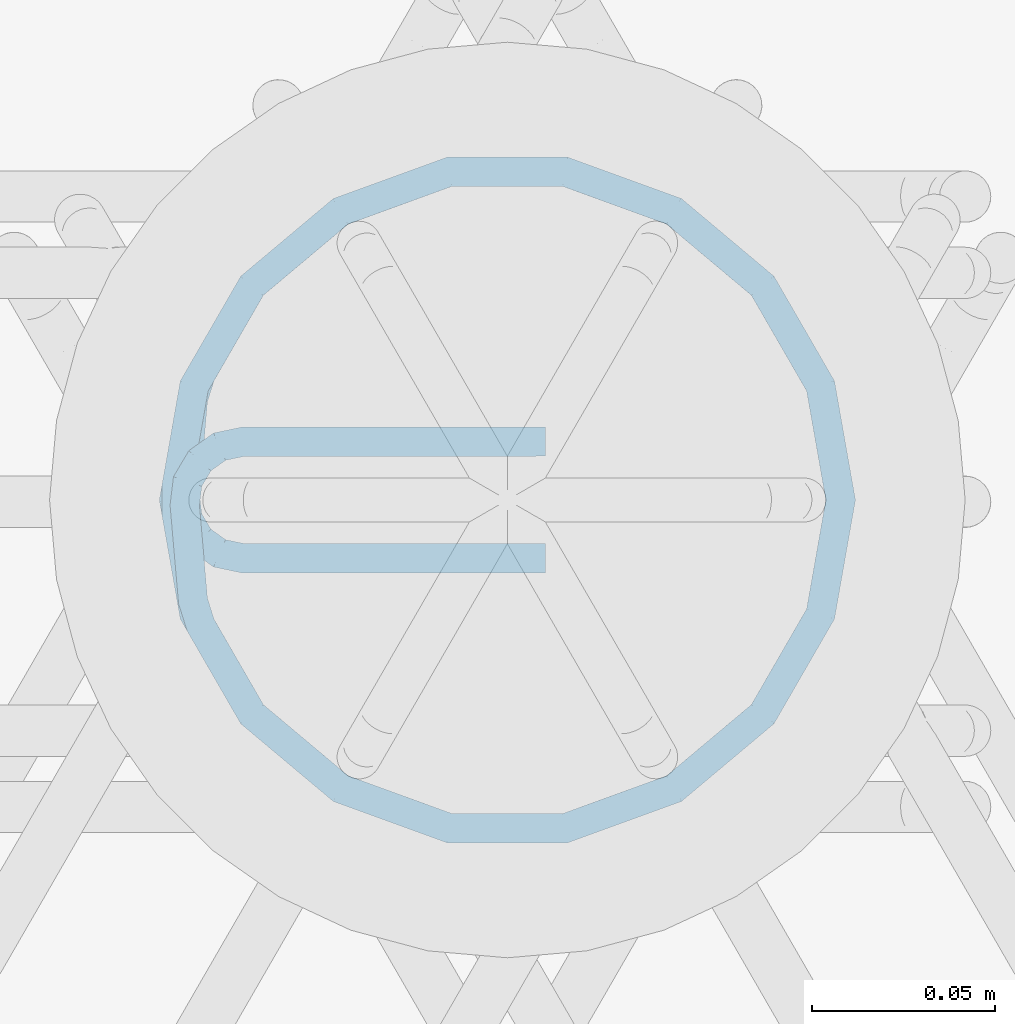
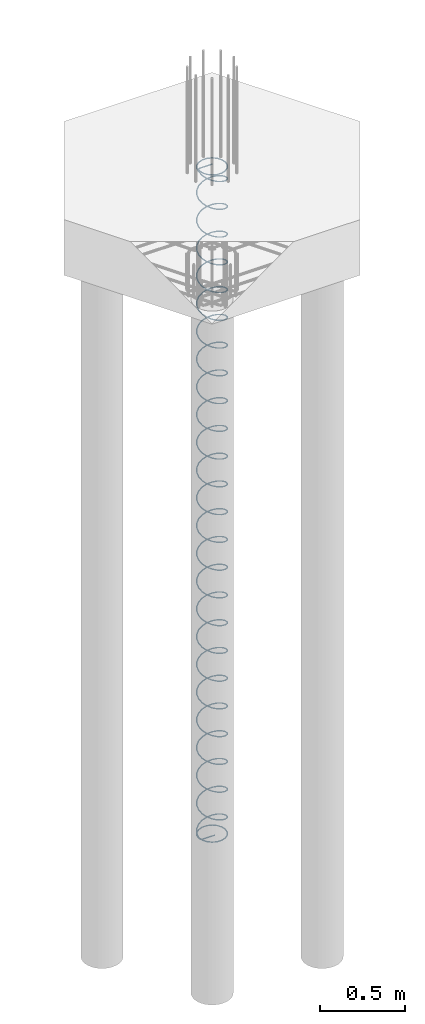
# One storey, part 18 of 23: 1 reinforcing bar.
"""IFC2X3 building model written with IfcOpenShell, lengths in metres."""

from ifc_helpers import new_model, entity, si_unit, direction, frame, origin, place, context, subcontext, project, spatial, shape, source, transform, mapped, element, save


model = new_model("IFC2X3")

# Units and contexts
model_context = context("Model", 3, precision=0.0, world=origin(), true_north=direction((0.0, 1.0)))
plan_context = context("Plan", 3, precision=0.0, world=origin(), true_north=direction((0.0, 1.0)))
body_context = subcontext(model_context, "Body", "Model", "MODEL_VIEW", scale=1.0)
ifc_project = project(units=[si_unit("LENGTHUNIT", "METRE"), si_unit("AREAUNIT", "SQUARE_METRE"), si_unit("VOLUMEUNIT", "CUBIC_METRE"), si_unit("PLANEANGLEUNIT", "RADIAN"), si_unit("THERMODYNAMICTEMPERATUREUNIT", "DEGREE_CELSIUS"), si_unit("FORCEUNIT", "NEWTON"), si_unit("MASSUNIT", "GRAM", prefix="KILO")], contexts=[model_context, plan_context])

# Site, building, storey
placement = place(None, origin())
site = spatial("IfcSite", under=ifc_project, at=placement, Name="Default Site", CompositionType="ELEMENT")
building = spatial("IfcBuilding", under=site, at=placement, Name="Default Building", CompositionType="ELEMENT")
storey_placement = place(placement, frame((0.0, 0.0, 0.0), z_axis=(1.0, 0.0, 0.0), x_axis=(0.0, 0.0, 1.0)))
storey = spatial("IfcBuildingStorey", under=building, at=storey_placement, Name="Piano 0", CompositionType="ELEMENT", Elevation=0.0)

# Reinforcing bar
shared_shape = source(origin(), body_context, None, "AdvancedSweptSolid", [
    entity("IfcSweptDiskSolid", entity("IfcCompositeCurve", [entity("IfcCompositeCurveSegment", "CONTINUOUS", True, entity("IfcPolyline", [entity("IfcCartesianPoint", [0.0, 0.0, 0.0]), entity("IfcCartesianPoint", [-0.08255, 0.0, 0.0]), entity("IfcCartesianPoint", [-0.088992, -0.001354, -1.3e-05]), entity("IfcCartesianPoint", [-0.094343, -0.005186, -4.9e-05]), entity("IfcCartesianPoint", [-0.097699, -0.010849, -0.000103]), entity("IfcCartesianPoint", [-0.09849, -0.017383, -0.000164]), entity("IfcCartesianPoint", [-0.096222, -0.043503, -0.000411]), entity("IfcCartesianPoint", [-0.094139, -0.050118, -0.000494]), entity("IfcCartesianPoint", [-0.080113, -0.074411, -0.000889]), entity("IfcCartesianPoint", [-0.055903, -0.094726, -0.001333]), entity("IfcCartesianPoint", [-0.026205, -0.105535, -0.001778]), entity("IfcCartesianPoint", [0.005399, -0.105535, -0.002222]), entity("IfcCartesianPoint", [0.035097, -0.094726, -0.002667]), entity("IfcCartesianPoint", [0.059307, -0.074411, -0.003111]), entity("IfcCartesianPoint", [0.075109, -0.047042, -0.003556]), entity("IfcCartesianPoint", [0.080597, -0.015918, -0.004]), entity("IfcCartesianPoint", [0.075109, 0.015206, -0.004444]), entity("IfcCartesianPoint", [0.059307, 0.042576, -0.004889]), entity("IfcCartesianPoint", [0.035097, 0.062891, -0.005333]), entity("IfcCartesianPoint", [0.005399, 0.0737, -0.005778]), entity("IfcCartesianPoint", [-0.026205, 0.0737, -0.006222]), entity("IfcCartesianPoint", [-0.055903, 0.062891, -0.006667]), entity("IfcCartesianPoint", [-0.080113, 0.042576, -0.007111]), entity("IfcCartesianPoint", [-0.095915, 0.015206, -0.007556]), entity("IfcCartesianPoint", [-0.100736, -0.012136, -0.007946]), entity("IfcCartesianPoint", [-0.100774, -0.019485, -0.009274]), entity("IfcCartesianPoint", [-0.095915, -0.047042, -0.019111]), entity("IfcCartesianPoint", [-0.080113, -0.074411, -0.030222]), entity("IfcCartesianPoint", [-0.055903, -0.094726, -0.041333]), entity("IfcCartesianPoint", [-0.026205, -0.105535, -0.052444]), entity("IfcCartesianPoint", [0.005399, -0.105535, -0.063556]), entity("IfcCartesianPoint", [0.035097, -0.094726, -0.074667]), entity("IfcCartesianPoint", [0.059307, -0.074411, -0.085778]), entity("IfcCartesianPoint", [0.075109, -0.047042, -0.096889]), entity("IfcCartesianPoint", [0.080597, -0.015918, -0.108]), entity("IfcCartesianPoint", [0.075109, 0.015206, -0.119111]), entity("IfcCartesianPoint", [0.059307, 0.042576, -0.130222]), entity("IfcCartesianPoint", [0.035097, 0.062891, -0.141333]), entity("IfcCartesianPoint", [0.005399, 0.0737, -0.152444]), entity("IfcCartesianPoint", [-0.026205, 0.0737, -0.163556]), entity("IfcCartesianPoint", [-0.055903, 0.062891, -0.174667]), entity("IfcCartesianPoint", [-0.080113, 0.042576, -0.185778]), entity("IfcCartesianPoint", [-0.095915, 0.015206, -0.196889]), entity("IfcCartesianPoint", [-0.101403, -0.015918, -0.208]), entity("IfcCartesianPoint", [-0.095915, -0.047042, -0.219111]), entity("IfcCartesianPoint", [-0.080113, -0.074411, -0.230222]), entity("IfcCartesianPoint", [-0.055903, -0.094726, -0.241333]), entity("IfcCartesianPoint", [-0.026205, -0.105535, -0.252444]), entity("IfcCartesianPoint", [0.005399, -0.105535, -0.263556]), entity("IfcCartesianPoint", [0.035097, -0.094726, -0.274667]), entity("IfcCartesianPoint", [0.059307, -0.074411, -0.285778]), entity("IfcCartesianPoint", [0.075109, -0.047042, -0.296889]), entity("IfcCartesianPoint", [0.080597, -0.015918, -0.308]), entity("IfcCartesianPoint", [0.075109, 0.015206, -0.319111]), entity("IfcCartesianPoint", [0.059307, 0.042576, -0.330222]), entity("IfcCartesianPoint", [0.035097, 0.062891, -0.341333]), entity("IfcCartesianPoint", [0.005399, 0.0737, -0.352444]), entity("IfcCartesianPoint", [-0.026205, 0.0737, -0.363556]), entity("IfcCartesianPoint", [-0.055903, 0.062891, -0.374667]), entity("IfcCartesianPoint", [-0.080113, 0.042576, -0.385778]), entity("IfcCartesianPoint", [-0.095915, 0.015206, -0.396889]), entity("IfcCartesianPoint", [-0.101403, -0.015918, -0.408]), entity("IfcCartesianPoint", [-0.095915, -0.047042, -0.419111]), entity("IfcCartesianPoint", [-0.080113, -0.074411, -0.430222]), entity("IfcCartesianPoint", [-0.055903, -0.094726, -0.441333]), entity("IfcCartesianPoint", [-0.026205, -0.105535, -0.452444]), entity("IfcCartesianPoint", [0.005399, -0.105535, -0.463556]), entity("IfcCartesianPoint", [0.035097, -0.094726, -0.474667]), entity("IfcCartesianPoint", [0.059307, -0.074411, -0.485778]), entity("IfcCartesianPoint", [0.075109, -0.047042, -0.496889]), entity("IfcCartesianPoint", [0.080597, -0.015918, -0.508]), entity("IfcCartesianPoint", [0.075109, 0.015206, -0.519111]), entity("IfcCartesianPoint", [0.059307, 0.042576, -0.530222]), entity("IfcCartesianPoint", [0.035097, 0.062891, -0.541333]), entity("IfcCartesianPoint", [0.005399, 0.0737, -0.552444]), entity("IfcCartesianPoint", [-0.026205, 0.0737, -0.563556]), entity("IfcCartesianPoint", [-0.055903, 0.062891, -0.574667]), entity("IfcCartesianPoint", [-0.080113, 0.042576, -0.585778]), entity("IfcCartesianPoint", [-0.095915, 0.015206, -0.596889]), entity("IfcCartesianPoint", [-0.101403, -0.015918, -0.608]), entity("IfcCartesianPoint", [-0.095915, -0.047042, -0.619111]), entity("IfcCartesianPoint", [-0.080113, -0.074411, -0.630222]), entity("IfcCartesianPoint", [-0.055903, -0.094726, -0.641333]), entity("IfcCartesianPoint", [-0.026205, -0.105535, -0.652444]), entity("IfcCartesianPoint", [0.005399, -0.105535, -0.663556]), entity("IfcCartesianPoint", [0.035097, -0.094726, -0.674667]), entity("IfcCartesianPoint", [0.059307, -0.074411, -0.685778]), entity("IfcCartesianPoint", [0.075109, -0.047042, -0.696889]), entity("IfcCartesianPoint", [0.080597, -0.015918, -0.708]), entity("IfcCartesianPoint", [0.075109, 0.015206, -0.719111]), entity("IfcCartesianPoint", [0.059307, 0.042576, -0.730222]), entity("IfcCartesianPoint", [0.035097, 0.062891, -0.741333]), entity("IfcCartesianPoint", [0.005399, 0.0737, -0.752444]), entity("IfcCartesianPoint", [-0.026205, 0.0737, -0.763556]), entity("IfcCartesianPoint", [-0.055903, 0.062891, -0.774667]), entity("IfcCartesianPoint", [-0.080113, 0.042576, -0.785778]), entity("IfcCartesianPoint", [-0.095915, 0.015206, -0.796889]), entity("IfcCartesianPoint", [-0.101403, -0.015918, -0.808]), entity("IfcCartesianPoint", [-0.095915, -0.047042, -0.819111]), entity("IfcCartesianPoint", [-0.080113, -0.074411, -0.830222]), entity("IfcCartesianPoint", [-0.055903, -0.094726, -0.841333]), entity("IfcCartesianPoint", [-0.026205, -0.105535, -0.852444]), entity("IfcCartesianPoint", [0.005399, -0.105535, -0.863556]), entity("IfcCartesianPoint", [0.035097, -0.094726, -0.874667]), entity("IfcCartesianPoint", [0.059307, -0.074411, -0.885778]), entity("IfcCartesianPoint", [0.075109, -0.047042, -0.896889]), entity("IfcCartesianPoint", [0.080597, -0.015918, -0.908]), entity("IfcCartesianPoint", [0.075109, 0.015206, -0.919111]), entity("IfcCartesianPoint", [0.059307, 0.042576, -0.930222]), entity("IfcCartesianPoint", [0.035097, 0.062891, -0.941333]), entity("IfcCartesianPoint", [0.005399, 0.0737, -0.952444]), entity("IfcCartesianPoint", [-0.026205, 0.0737, -0.963556]), entity("IfcCartesianPoint", [-0.055903, 0.062891, -0.974667]), entity("IfcCartesianPoint", [-0.080113, 0.042576, -0.985778]), entity("IfcCartesianPoint", [-0.095915, 0.015206, -0.996889]), entity("IfcCartesianPoint", [-0.101403, -0.015918, -1.008]), entity("IfcCartesianPoint", [-0.095915, -0.047042, -1.019111]), entity("IfcCartesianPoint", [-0.080113, -0.074411, -1.030222]), entity("IfcCartesianPoint", [-0.055903, -0.094726, -1.041333]), entity("IfcCartesianPoint", [-0.026205, -0.105535, -1.052444]), entity("IfcCartesianPoint", [0.005399, -0.105535, -1.063556]), entity("IfcCartesianPoint", [0.035097, -0.094726, -1.074667]), entity("IfcCartesianPoint", [0.059307, -0.074411, -1.085778]), entity("IfcCartesianPoint", [0.075109, -0.047042, -1.096889]), entity("IfcCartesianPoint", [0.080597, -0.015918, -1.108]), entity("IfcCartesianPoint", [0.075109, 0.015206, -1.119111]), entity("IfcCartesianPoint", [0.059307, 0.042576, -1.130222]), entity("IfcCartesianPoint", [0.035097, 0.062891, -1.141333]), entity("IfcCartesianPoint", [0.005399, 0.0737, -1.152444]), entity("IfcCartesianPoint", [-0.026205, 0.0737, -1.163556]), entity("IfcCartesianPoint", [-0.055903, 0.062891, -1.174667]), entity("IfcCartesianPoint", [-0.080113, 0.042576, -1.185778]), entity("IfcCartesianPoint", [-0.095915, 0.015206, -1.196889]), entity("IfcCartesianPoint", [-0.101403, -0.015918, -1.208]), entity("IfcCartesianPoint", [-0.095915, -0.047042, -1.219111]), entity("IfcCartesianPoint", [-0.080113, -0.074411, -1.230222]), entity("IfcCartesianPoint", [-0.055903, -0.094726, -1.241333]), entity("IfcCartesianPoint", [-0.026205, -0.105535, -1.252444]), entity("IfcCartesianPoint", [0.005399, -0.105535, -1.263556]), entity("IfcCartesianPoint", [0.035097, -0.094726, -1.274667]), entity("IfcCartesianPoint", [0.059307, -0.074411, -1.285778]), entity("IfcCartesianPoint", [0.075109, -0.047042, -1.296889]), entity("IfcCartesianPoint", [0.080597, -0.015918, -1.308]), entity("IfcCartesianPoint", [0.075109, 0.015206, -1.319111]), entity("IfcCartesianPoint", [0.059307, 0.042576, -1.330222]), entity("IfcCartesianPoint", [0.035097, 0.062891, -1.341333]), entity("IfcCartesianPoint", [0.005399, 0.0737, -1.352444]), entity("IfcCartesianPoint", [-0.026205, 0.0737, -1.363556]), entity("IfcCartesianPoint", [-0.055903, 0.062891, -1.374667]), entity("IfcCartesianPoint", [-0.080113, 0.042576, -1.385778]), entity("IfcCartesianPoint", [-0.095915, 0.015206, -1.396889]), entity("IfcCartesianPoint", [-0.101403, -0.015918, -1.408]), entity("IfcCartesianPoint", [-0.095915, -0.047042, -1.419111]), entity("IfcCartesianPoint", [-0.080113, -0.074411, -1.430222]), entity("IfcCartesianPoint", [-0.055903, -0.094726, -1.441333]), entity("IfcCartesianPoint", [-0.026205, -0.105535, -1.452444]), entity("IfcCartesianPoint", [0.005399, -0.105535, -1.463556]), entity("IfcCartesianPoint", [0.035097, -0.094726, -1.474667]), entity("IfcCartesianPoint", [0.059307, -0.074411, -1.485778]), entity("IfcCartesianPoint", [0.075109, -0.047042, -1.496889]), entity("IfcCartesianPoint", [0.080597, -0.015918, -1.508]), entity("IfcCartesianPoint", [0.075109, 0.015206, -1.519111]), entity("IfcCartesianPoint", [0.059307, 0.042576, -1.530222]), entity("IfcCartesianPoint", [0.035097, 0.062891, -1.541333]), entity("IfcCartesianPoint", [0.005399, 0.0737, -1.552444]), entity("IfcCartesianPoint", [-0.026205, 0.0737, -1.563556]), entity("IfcCartesianPoint", [-0.055903, 0.062891, -1.574667]), entity("IfcCartesianPoint", [-0.080113, 0.042576, -1.585778]), entity("IfcCartesianPoint", [-0.095915, 0.015206, -1.596889]), entity("IfcCartesianPoint", [-0.101403, -0.015918, -1.608]), entity("IfcCartesianPoint", [-0.095915, -0.047042, -1.619111]), entity("IfcCartesianPoint", [-0.080113, -0.074411, -1.630222]), entity("IfcCartesianPoint", [-0.055903, -0.094726, -1.641333]), entity("IfcCartesianPoint", [-0.026205, -0.105535, -1.652444]), entity("IfcCartesianPoint", [0.005399, -0.105535, -1.663556]), entity("IfcCartesianPoint", [0.035097, -0.094726, -1.674667]), entity("IfcCartesianPoint", [0.059307, -0.074411, -1.685778]), entity("IfcCartesianPoint", [0.075109, -0.047042, -1.696889]), entity("IfcCartesianPoint", [0.080597, -0.015918, -1.708]), entity("IfcCartesianPoint", [0.075109, 0.015206, -1.719111]), entity("IfcCartesianPoint", [0.059307, 0.042576, -1.730222]), entity("IfcCartesianPoint", [0.035097, 0.062891, -1.741333]), entity("IfcCartesianPoint", [0.005399, 0.0737, -1.752444]), entity("IfcCartesianPoint", [-0.026205, 0.0737, -1.763556]), entity("IfcCartesianPoint", [-0.055903, 0.062891, -1.774667]), entity("IfcCartesianPoint", [-0.080113, 0.042576, -1.785778]), entity("IfcCartesianPoint", [-0.095915, 0.015206, -1.796889]), entity("IfcCartesianPoint", [-0.101403, -0.015918, -1.808]), entity("IfcCartesianPoint", [-0.095915, -0.047042, -1.819111]), entity("IfcCartesianPoint", [-0.080113, -0.074411, -1.830222]), entity("IfcCartesianPoint", [-0.055903, -0.094726, -1.841333]), entity("IfcCartesianPoint", [-0.026205, -0.105535, -1.852444]), entity("IfcCartesianPoint", [0.005399, -0.105535, -1.863556]), entity("IfcCartesianPoint", [0.035097, -0.094726, -1.874667]), entity("IfcCartesianPoint", [0.059307, -0.074411, -1.885778]), entity("IfcCartesianPoint", [0.075109, -0.047042, -1.896889]), entity("IfcCartesianPoint", [0.080597, -0.015918, -1.908]), entity("IfcCartesianPoint", [0.075109, 0.015206, -1.919111]), entity("IfcCartesianPoint", [0.059307, 0.042576, -1.930222]), entity("IfcCartesianPoint", [0.035097, 0.062891, -1.941333]), entity("IfcCartesianPoint", [0.005399, 0.0737, -1.952444]), entity("IfcCartesianPoint", [-0.026205, 0.0737, -1.963556]), entity("IfcCartesianPoint", [-0.055903, 0.062891, -1.974667]), entity("IfcCartesianPoint", [-0.080113, 0.042576, -1.985778]), entity("IfcCartesianPoint", [-0.095915, 0.015206, -1.996889]), entity("IfcCartesianPoint", [-0.101403, -0.015918, -2.008]), entity("IfcCartesianPoint", [-0.095915, -0.047042, -2.019111]), entity("IfcCartesianPoint", [-0.080113, -0.074411, -2.030222]), entity("IfcCartesianPoint", [-0.055903, -0.094726, -2.041333]), entity("IfcCartesianPoint", [-0.026205, -0.105535, -2.052444]), entity("IfcCartesianPoint", [0.005399, -0.105535, -2.063556]), entity("IfcCartesianPoint", [0.035097, -0.094726, -2.074667]), entity("IfcCartesianPoint", [0.059307, -0.074411, -2.085778]), entity("IfcCartesianPoint", [0.075109, -0.047042, -2.096889]), entity("IfcCartesianPoint", [0.080597, -0.015918, -2.108]), entity("IfcCartesianPoint", [0.075109, 0.015206, -2.119111]), entity("IfcCartesianPoint", [0.059307, 0.042576, -2.130222]), entity("IfcCartesianPoint", [0.035097, 0.062891, -2.141333]), entity("IfcCartesianPoint", [0.005399, 0.0737, -2.152444]), entity("IfcCartesianPoint", [-0.026205, 0.0737, -2.163556]), entity("IfcCartesianPoint", [-0.055903, 0.062891, -2.174667]), entity("IfcCartesianPoint", [-0.080113, 0.042576, -2.185778]), entity("IfcCartesianPoint", [-0.095915, 0.015206, -2.196889]), entity("IfcCartesianPoint", [-0.101403, -0.015918, -2.208]), entity("IfcCartesianPoint", [-0.095915, -0.047042, -2.219111]), entity("IfcCartesianPoint", [-0.080113, -0.074411, -2.230222]), entity("IfcCartesianPoint", [-0.055903, -0.094726, -2.241333]), entity("IfcCartesianPoint", [-0.026205, -0.105535, -2.252444]), entity("IfcCartesianPoint", [0.005399, -0.105535, -2.263556]), entity("IfcCartesianPoint", [0.035097, -0.094726, -2.274667]), entity("IfcCartesianPoint", [0.059307, -0.074411, -2.285778]), entity("IfcCartesianPoint", [0.075109, -0.047042, -2.296889]), entity("IfcCartesianPoint", [0.080597, -0.015918, -2.308]), entity("IfcCartesianPoint", [0.075109, 0.015206, -2.319111]), entity("IfcCartesianPoint", [0.059307, 0.042576, -2.330222]), entity("IfcCartesianPoint", [0.035097, 0.062891, -2.341333]), entity("IfcCartesianPoint", [0.005399, 0.0737, -2.352444]), entity("IfcCartesianPoint", [-0.026205, 0.0737, -2.363556]), entity("IfcCartesianPoint", [-0.055903, 0.062891, -2.374667]), entity("IfcCartesianPoint", [-0.080113, 0.042576, -2.385778]), entity("IfcCartesianPoint", [-0.095915, 0.015206, -2.396889]), entity("IfcCartesianPoint", [-0.101403, -0.015918, -2.408]), entity("IfcCartesianPoint", [-0.095915, -0.047042, -2.419111]), entity("IfcCartesianPoint", [-0.080113, -0.074411, -2.430222]), entity("IfcCartesianPoint", [-0.055903, -0.094726, -2.441333]), entity("IfcCartesianPoint", [-0.026205, -0.105535, -2.452444]), entity("IfcCartesianPoint", [0.005399, -0.105535, -2.463556]), entity("IfcCartesianPoint", [0.035097, -0.094726, -2.474667]), entity("IfcCartesianPoint", [0.059307, -0.074411, -2.485778]), entity("IfcCartesianPoint", [0.075109, -0.047042, -2.496889]), entity("IfcCartesianPoint", [0.080597, -0.015918, -2.508]), entity("IfcCartesianPoint", [0.075109, 0.015206, -2.519111]), entity("IfcCartesianPoint", [0.059307, 0.042576, -2.530222]), entity("IfcCartesianPoint", [0.035097, 0.062891, -2.541333]), entity("IfcCartesianPoint", [0.005399, 0.0737, -2.552444]), entity("IfcCartesianPoint", [-0.026205, 0.0737, -2.563556]), entity("IfcCartesianPoint", [-0.055903, 0.062891, -2.574667]), entity("IfcCartesianPoint", [-0.080113, 0.042576, -2.585778]), entity("IfcCartesianPoint", [-0.095915, 0.015206, -2.596889]), entity("IfcCartesianPoint", [-0.101403, -0.015918, -2.608]), entity("IfcCartesianPoint", [-0.095915, -0.047042, -2.619111]), entity("IfcCartesianPoint", [-0.080113, -0.074411, -2.630222]), entity("IfcCartesianPoint", [-0.055903, -0.094726, -2.641333]), entity("IfcCartesianPoint", [-0.026205, -0.105535, -2.652444]), entity("IfcCartesianPoint", [0.005399, -0.105535, -2.663556]), entity("IfcCartesianPoint", [0.035097, -0.094726, -2.674667]), entity("IfcCartesianPoint", [0.059307, -0.074411, -2.685778]), entity("IfcCartesianPoint", [0.075109, -0.047042, -2.696889]), entity("IfcCartesianPoint", [0.080597, -0.015918, -2.708]), entity("IfcCartesianPoint", [0.075109, 0.015206, -2.719111]), entity("IfcCartesianPoint", [0.059307, 0.042576, -2.730222]), entity("IfcCartesianPoint", [0.035097, 0.062891, -2.741333]), entity("IfcCartesianPoint", [0.005399, 0.0737, -2.752444]), entity("IfcCartesianPoint", [-0.026205, 0.0737, -2.763556]), entity("IfcCartesianPoint", [-0.055903, 0.062891, -2.774667]), entity("IfcCartesianPoint", [-0.080113, 0.042576, -2.785778]), entity("IfcCartesianPoint", [-0.095915, 0.015206, -2.796889]), entity("IfcCartesianPoint", [-0.101403, -0.015918, -2.808]), entity("IfcCartesianPoint", [-0.095915, -0.047042, -2.819111]), entity("IfcCartesianPoint", [-0.080113, -0.074411, -2.830222]), entity("IfcCartesianPoint", [-0.055903, -0.094726, -2.841333]), entity("IfcCartesianPoint", [-0.026205, -0.105535, -2.852444]), entity("IfcCartesianPoint", [0.005399, -0.105535, -2.863556]), entity("IfcCartesianPoint", [0.035097, -0.094726, -2.874667]), entity("IfcCartesianPoint", [0.059307, -0.074411, -2.885778]), entity("IfcCartesianPoint", [0.075109, -0.047042, -2.896889]), entity("IfcCartesianPoint", [0.080597, -0.015918, -2.908]), entity("IfcCartesianPoint", [0.075109, 0.015206, -2.919111]), entity("IfcCartesianPoint", [0.059307, 0.042576, -2.930222]), entity("IfcCartesianPoint", [0.035097, 0.062891, -2.941333]), entity("IfcCartesianPoint", [0.005399, 0.0737, -2.952444]), entity("IfcCartesianPoint", [-0.026205, 0.0737, -2.963556]), entity("IfcCartesianPoint", [-0.055903, 0.062891, -2.974667]), entity("IfcCartesianPoint", [-0.080113, 0.042576, -2.985778]), entity("IfcCartesianPoint", [-0.095915, 0.015206, -2.996889]), entity("IfcCartesianPoint", [-0.101403, -0.015918, -3.008]), entity("IfcCartesianPoint", [-0.095915, -0.047042, -3.019111]), entity("IfcCartesianPoint", [-0.080113, -0.074411, -3.030222]), entity("IfcCartesianPoint", [-0.055903, -0.094726, -3.041333]), entity("IfcCartesianPoint", [-0.026205, -0.105535, -3.052444]), entity("IfcCartesianPoint", [0.005399, -0.105535, -3.063556]), entity("IfcCartesianPoint", [0.035097, -0.094726, -3.074667]), entity("IfcCartesianPoint", [0.059307, -0.074411, -3.085778]), entity("IfcCartesianPoint", [0.075109, -0.047042, -3.096889]), entity("IfcCartesianPoint", [0.080597, -0.015918, -3.108]), entity("IfcCartesianPoint", [0.075109, 0.015206, -3.119111]), entity("IfcCartesianPoint", [0.059307, 0.042576, -3.130222]), entity("IfcCartesianPoint", [0.035097, 0.062891, -3.141333]), entity("IfcCartesianPoint", [0.005399, 0.0737, -3.152444]), entity("IfcCartesianPoint", [-0.026205, 0.0737, -3.163556]), entity("IfcCartesianPoint", [-0.055903, 0.062891, -3.174667]), entity("IfcCartesianPoint", [-0.080113, 0.042576, -3.185778]), entity("IfcCartesianPoint", [-0.095915, 0.015206, -3.196889]), entity("IfcCartesianPoint", [-0.101403, -0.015918, -3.208]), entity("IfcCartesianPoint", [-0.095915, -0.047042, -3.219111]), entity("IfcCartesianPoint", [-0.080113, -0.074411, -3.230222]), entity("IfcCartesianPoint", [-0.055903, -0.094726, -3.241333]), entity("IfcCartesianPoint", [-0.026205, -0.105535, -3.252444]), entity("IfcCartesianPoint", [0.005399, -0.105535, -3.263556]), entity("IfcCartesianPoint", [0.035097, -0.094726, -3.274667]), entity("IfcCartesianPoint", [0.059307, -0.074411, -3.285778]), entity("IfcCartesianPoint", [0.075109, -0.047042, -3.296889]), entity("IfcCartesianPoint", [0.080597, -0.015918, -3.308]), entity("IfcCartesianPoint", [0.075109, 0.015206, -3.319111]), entity("IfcCartesianPoint", [0.059307, 0.042576, -3.330222]), entity("IfcCartesianPoint", [0.035097, 0.062891, -3.341333]), entity("IfcCartesianPoint", [0.005399, 0.0737, -3.352444]), entity("IfcCartesianPoint", [-0.026205, 0.0737, -3.363556]), entity("IfcCartesianPoint", [-0.055903, 0.062891, -3.374667]), entity("IfcCartesianPoint", [-0.080113, 0.042576, -3.385778]), entity("IfcCartesianPoint", [-0.095915, 0.015206, -3.396889]), entity("IfcCartesianPoint", [-0.101403, -0.015918, -3.408]), entity("IfcCartesianPoint", [-0.095915, -0.047042, -3.419111]), entity("IfcCartesianPoint", [-0.080113, -0.074411, -3.430222]), entity("IfcCartesianPoint", [-0.055903, -0.094726, -3.441333]), entity("IfcCartesianPoint", [-0.026205, -0.105535, -3.452444]), entity("IfcCartesianPoint", [0.005399, -0.105535, -3.463556]), entity("IfcCartesianPoint", [0.035097, -0.094726, -3.474667]), entity("IfcCartesianPoint", [0.059307, -0.074411, -3.485778]), entity("IfcCartesianPoint", [0.075109, -0.047042, -3.496889]), entity("IfcCartesianPoint", [0.080597, -0.015918, -3.508]), entity("IfcCartesianPoint", [0.075109, 0.015206, -3.519111]), entity("IfcCartesianPoint", [0.059307, 0.042576, -3.530222]), entity("IfcCartesianPoint", [0.035097, 0.062891, -3.541333]), entity("IfcCartesianPoint", [0.005399, 0.0737, -3.552444]), entity("IfcCartesianPoint", [-0.026205, 0.0737, -3.563556]), entity("IfcCartesianPoint", [-0.055903, 0.062891, -3.574667]), entity("IfcCartesianPoint", [-0.080113, 0.042576, -3.585778]), entity("IfcCartesianPoint", [-0.095915, 0.015206, -3.596889]), entity("IfcCartesianPoint", [-0.101403, -0.015918, -3.608]), entity("IfcCartesianPoint", [-0.095915, -0.047042, -3.619111]), entity("IfcCartesianPoint", [-0.080113, -0.074411, -3.630222]), entity("IfcCartesianPoint", [-0.055903, -0.094726, -3.641333]), entity("IfcCartesianPoint", [-0.026205, -0.105535, -3.652444]), entity("IfcCartesianPoint", [0.005399, -0.105535, -3.663556]), entity("IfcCartesianPoint", [0.035097, -0.094726, -3.674667]), entity("IfcCartesianPoint", [0.059307, -0.074411, -3.685778]), entity("IfcCartesianPoint", [0.075109, -0.047042, -3.696889]), entity("IfcCartesianPoint", [0.080597, -0.015918, -3.708]), entity("IfcCartesianPoint", [0.075109, 0.015206, -3.719111]), entity("IfcCartesianPoint", [0.059307, 0.042576, -3.730222]), entity("IfcCartesianPoint", [0.035097, 0.062891, -3.741333]), entity("IfcCartesianPoint", [0.005399, 0.0737, -3.752444]), entity("IfcCartesianPoint", [-0.026205, 0.0737, -3.763556]), entity("IfcCartesianPoint", [-0.055903, 0.062891, -3.774667]), entity("IfcCartesianPoint", [-0.080113, 0.042576, -3.785778]), entity("IfcCartesianPoint", [-0.095915, 0.015206, -3.796889]), entity("IfcCartesianPoint", [-0.101403, -0.015918, -3.808]), entity("IfcCartesianPoint", [-0.095915, -0.047042, -3.819111]), entity("IfcCartesianPoint", [-0.080113, -0.074411, -3.830222]), entity("IfcCartesianPoint", [-0.055903, -0.094726, -3.841333]), entity("IfcCartesianPoint", [-0.026205, -0.105535, -3.852444]), entity("IfcCartesianPoint", [0.005399, -0.105535, -3.863556]), entity("IfcCartesianPoint", [0.035097, -0.094726, -3.874667]), entity("IfcCartesianPoint", [0.059307, -0.074411, -3.885778]), entity("IfcCartesianPoint", [0.075109, -0.047042, -3.896889]), entity("IfcCartesianPoint", [0.080597, -0.015918, -3.908]), entity("IfcCartesianPoint", [0.075109, 0.015206, -3.919111]), entity("IfcCartesianPoint", [0.059307, 0.042576, -3.930222]), entity("IfcCartesianPoint", [0.035097, 0.062891, -3.941333]), entity("IfcCartesianPoint", [0.005399, 0.0737, -3.952444]), entity("IfcCartesianPoint", [-0.026205, 0.0737, -3.963556]), entity("IfcCartesianPoint", [-0.055903, 0.062891, -3.974667]), entity("IfcCartesianPoint", [-0.080113, 0.042576, -3.985778]), entity("IfcCartesianPoint", [-0.095915, 0.015206, -3.996889]), entity("IfcCartesianPoint", [-0.101403, -0.015918, -4.008]), entity("IfcCartesianPoint", [-0.095915, -0.047042, -4.019111]), entity("IfcCartesianPoint", [-0.080113, -0.074411, -4.030222]), entity("IfcCartesianPoint", [-0.055903, -0.094726, -4.041333]), entity("IfcCartesianPoint", [-0.026205, -0.105535, -4.052444]), entity("IfcCartesianPoint", [0.005399, -0.105535, -4.063556]), entity("IfcCartesianPoint", [0.035097, -0.094726, -4.074667]), entity("IfcCartesianPoint", [0.059307, -0.074411, -4.085778]), entity("IfcCartesianPoint", [0.075109, -0.047042, -4.096889]), entity("IfcCartesianPoint", [0.080597, -0.015918, -4.108]), entity("IfcCartesianPoint", [0.075109, 0.015206, -4.119111]), entity("IfcCartesianPoint", [0.059307, 0.042576, -4.130222]), entity("IfcCartesianPoint", [0.035097, 0.062891, -4.141333]), entity("IfcCartesianPoint", [0.005399, 0.0737, -4.152444]), entity("IfcCartesianPoint", [-0.026205, 0.0737, -4.163556]), entity("IfcCartesianPoint", [-0.055903, 0.062891, -4.174667]), entity("IfcCartesianPoint", [-0.080113, 0.042576, -4.185778]), entity("IfcCartesianPoint", [-0.095915, 0.015206, -4.196889]), entity("IfcCartesianPoint", [-0.101403, -0.015918, -4.208]), entity("IfcCartesianPoint", [-0.095915, -0.047042, -4.219111]), entity("IfcCartesianPoint", [-0.080113, -0.074411, -4.230222]), entity("IfcCartesianPoint", [-0.055903, -0.094726, -4.241333]), entity("IfcCartesianPoint", [-0.026205, -0.105535, -4.252444]), entity("IfcCartesianPoint", [0.005399, -0.105535, -4.263556]), entity("IfcCartesianPoint", [0.035097, -0.094726, -4.274667]), entity("IfcCartesianPoint", [0.059307, -0.074411, -4.285778]), entity("IfcCartesianPoint", [0.075109, -0.047042, -4.296889]), entity("IfcCartesianPoint", [0.080597, -0.015918, -4.308]), entity("IfcCartesianPoint", [0.075109, 0.015206, -4.319111]), entity("IfcCartesianPoint", [0.059307, 0.042576, -4.330222]), entity("IfcCartesianPoint", [0.035097, 0.062891, -4.341333]), entity("IfcCartesianPoint", [0.005399, 0.0737, -4.352444]), entity("IfcCartesianPoint", [-0.026205, 0.0737, -4.363556]), entity("IfcCartesianPoint", [-0.055903, 0.062891, -4.374667]), entity("IfcCartesianPoint", [-0.080113, 0.042576, -4.385778]), entity("IfcCartesianPoint", [-0.095915, 0.015206, -4.396889]), entity("IfcCartesianPoint", [-0.101403, -0.015918, -4.408]), entity("IfcCartesianPoint", [-0.095915, -0.047042, -4.419111]), entity("IfcCartesianPoint", [-0.080113, -0.074411, -4.430222]), entity("IfcCartesianPoint", [-0.055903, -0.094726, -4.441333]), entity("IfcCartesianPoint", [-0.026205, -0.105535, -4.452444]), entity("IfcCartesianPoint", [0.005399, -0.105535, -4.463556]), entity("IfcCartesianPoint", [0.035097, -0.094726, -4.474667]), entity("IfcCartesianPoint", [0.059307, -0.074411, -4.485778]), entity("IfcCartesianPoint", [0.075109, -0.047042, -4.496889]), entity("IfcCartesianPoint", [0.080597, -0.015918, -4.508]), entity("IfcCartesianPoint", [0.075109, 0.015206, -4.519111]), entity("IfcCartesianPoint", [0.059307, 0.042576, -4.530222]), entity("IfcCartesianPoint", [0.035097, 0.062891, -4.541333]), entity("IfcCartesianPoint", [0.005399, 0.0737, -4.552444]), entity("IfcCartesianPoint", [-0.026205, 0.0737, -4.563556]), entity("IfcCartesianPoint", [-0.055903, 0.062891, -4.574667]), entity("IfcCartesianPoint", [-0.080113, 0.042576, -4.585778]), entity("IfcCartesianPoint", [-0.095915, 0.015206, -4.596889]), entity("IfcCartesianPoint", [-0.101403, -0.015918, -4.608]), entity("IfcCartesianPoint", [-0.095915, -0.047042, -4.619111]), entity("IfcCartesianPoint", [-0.080113, -0.074411, -4.630222]), entity("IfcCartesianPoint", [-0.055903, -0.094726, -4.641333]), entity("IfcCartesianPoint", [-0.026205, -0.105535, -4.652444]), entity("IfcCartesianPoint", [0.005399, -0.105535, -4.663556]), entity("IfcCartesianPoint", [0.035097, -0.094726, -4.674667]), entity("IfcCartesianPoint", [0.059307, -0.074411, -4.685778]), entity("IfcCartesianPoint", [0.075109, -0.047042, -4.696889]), entity("IfcCartesianPoint", [0.080597, -0.015918, -4.708]), entity("IfcCartesianPoint", [0.075109, 0.015206, -4.719111]), entity("IfcCartesianPoint", [0.059307, 0.042576, -4.730222]), entity("IfcCartesianPoint", [0.035097, 0.062891, -4.741333]), entity("IfcCartesianPoint", [0.005399, 0.0737, -4.752444]), entity("IfcCartesianPoint", [-0.026205, 0.0737, -4.763556]), entity("IfcCartesianPoint", [-0.055903, 0.062891, -4.774667]), entity("IfcCartesianPoint", [-0.080113, 0.042576, -4.785778]), entity("IfcCartesianPoint", [-0.095915, 0.015206, -4.796889]), entity("IfcCartesianPoint", [-0.100774, -0.01235, -4.806726]), entity("IfcCartesianPoint", [-0.100736, -0.019699, -4.808054]), entity("IfcCartesianPoint", [-0.095915, -0.047042, -4.808444]), entity("IfcCartesianPoint", [-0.080113, -0.074411, -4.808889]), entity("IfcCartesianPoint", [-0.055903, -0.094726, -4.809333]), entity("IfcCartesianPoint", [-0.026205, -0.105535, -4.809778]), entity("IfcCartesianPoint", [0.005399, -0.105535, -4.810222]), entity("IfcCartesianPoint", [0.035097, -0.094726, -4.810667]), entity("IfcCartesianPoint", [0.059307, -0.074411, -4.811111]), entity("IfcCartesianPoint", [0.075109, -0.047042, -4.811556]), entity("IfcCartesianPoint", [0.080597, -0.015918, -4.812]), entity("IfcCartesianPoint", [0.075109, 0.015206, -4.812444]), entity("IfcCartesianPoint", [0.059307, 0.042576, -4.812889]), entity("IfcCartesianPoint", [0.035097, 0.062891, -4.813333]), entity("IfcCartesianPoint", [0.005399, 0.0737, -4.813778]), entity("IfcCartesianPoint", [-0.026205, 0.0737, -4.814222]), entity("IfcCartesianPoint", [-0.055903, 0.062891, -4.814667]), entity("IfcCartesianPoint", [-0.080113, 0.042576, -4.815111]), entity("IfcCartesianPoint", [-0.094139, 0.018282, -4.815506]), entity("IfcCartesianPoint", [-0.096222, 0.011667, -4.815589]), entity("IfcCartesianPoint", [-0.09849, -0.014452, -4.815836]), entity("IfcCartesianPoint", [-0.097699, -0.020986, -4.815897]), entity("IfcCartesianPoint", [-0.094343, -0.026649, -4.815951]), entity("IfcCartesianPoint", [-0.088992, -0.030481, -4.815987]), entity("IfcCartesianPoint", [-0.08255, -0.031835, -4.816]), entity("IfcCartesianPoint", [0.0, -0.031835, -4.816])]))], False), 0.004, 0.0, 0.0),
])
element("IfcReinforcingBar", 1, at=placement, inside=storey, Name="Arm Staffa; Palo:4 Filo:3 [Piano:0]", BarLength=15.841196, BarRole="SHEAR", BarSurface="TEXTURED", NominalDiameter=0.008, shapes=[
    shape(body_context, None, "MappedRepresentation", [mapped(shared_shape, transform((8.385403, 0.665918, -0.492)))]),
])

save(model, "model.ifc")
